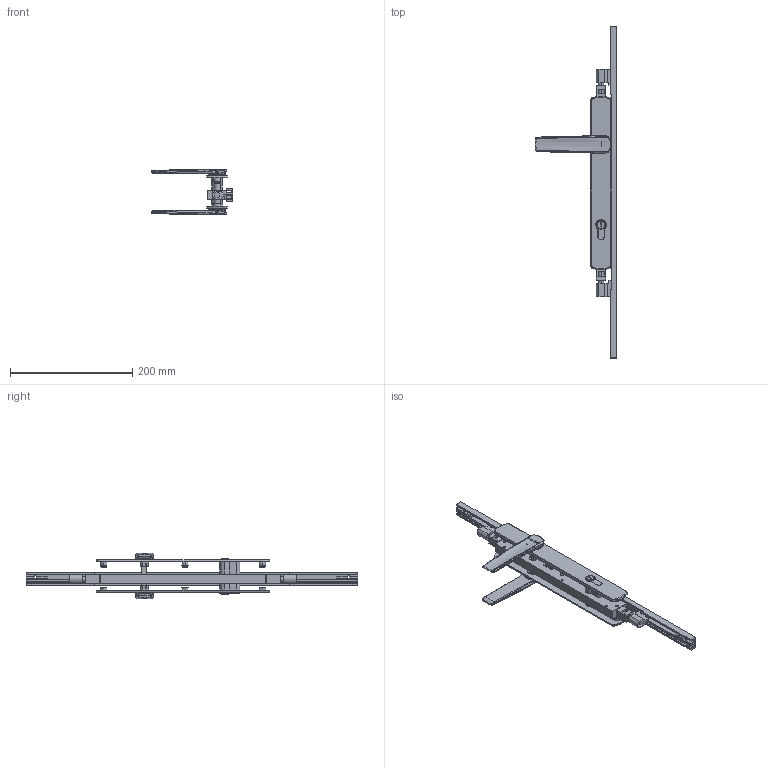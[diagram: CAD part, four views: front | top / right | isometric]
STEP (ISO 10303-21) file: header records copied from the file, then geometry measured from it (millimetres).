
FILE_DESCRIPTION (( 'STEP AP214' ), '1' );
FILE_NAME ('TPL-W-APC-614-U 28Oct2024.STEP', '2024-10-28T03:53:05', ( '' ), ( '' ), 'SwSTEP 2.0', 'SolidWorks 2023', '' );
FILE_SCHEMA (( 'AUTOMOTIVE_DESIGN' ));
Length unit declared in the file: millimetre
Products named in the file (24): Copy of TPGen2 handle keyed internal zinc - simplified^TPL-W-APC-114 18Oct2024_Right; Copy of LKC-585 Rotator body zinc^Copy of TPGen2 handle keyed external zinc - simplified_TPL-W-APC-114 18Oct2024; Copy of LKC-505 Swing handle zinc - simplified^Copy of TPGen2 handle keyed internal zinc - simplified_TPL-W-APC-114 18Oct2024; Adapter C - simplfied^TPL-W-APC-114 18Oct2024; Copy of TPLGen2 lock body keyed assembly^TPL-W-APC-114 18Oct2024_Bolts retracted; Bolt.step; Adapter D - simplfied^TPL-W-APC-114 18Oct2024; Copy of LKC-531 Lock twinpoint transmission rod wood system^TPL-W-APC-114 18Oct2024_Standard Range (588.7mm); Copy of LKC-585 Rotator body zinc^Copy of TPGen2 handle keyed internal zinc - simplified_TPL-W-APC-114 18Oct2024; Copy of COV-115-A Cover A suit TPLGen2 standard range AU with hinge holes^TPL-W-APC-114 18Oct2024_1335mm; Copy of TPL-036 Lock cylinder double key C4 3-5 PIN 55 (23-32)mm^TPL-W-APC-114 18Oct2024_Right; Copy of Copy of LKC-531 Lock twinpoint transmission rod wood system^TPL-W-APC-114 18Oct2024_Standard Range 2891.7mm; Copy of LKC-514 Escutcheon plate keyed external 285mm long zinc - simplified^Copy of TPGen2 handle keyed external zinc - simplified_TPL-W-APC-114 18Oct2024; Copy of TPLGen2 push rod - simplified^Copy of TPLGen2 lock body keyed assembly_TPL-W-APC-114 18Oct2024_Female thread M10; TPL-W-APC-614-U 28Oct2024; Copy of TPGen2 handle keyed external zinc - simplified^TPL-W-APC-114 18Oct2024_Left; Copy of LKC-584 Pivot body zinc - simplified^Copy of TPGen2 handle keyed internal zinc - simplified_TPL-W-APC-114 18Oct2024; Copy of LKC-512 Escutcheon plate keyed internal 285mm long zinc - simplified^Copy of TPGen2 handle keyed internal zinc - simplified_TPL-W-APC-114 18Oct2024; Copy of LKC-586 Spindle square 8mm with M4 hole^Copy of TPGen2 handle keyed internal zinc - simplified_TPL-W-APC-114 18Oct2024_42mm; Copy of LKC-584 Pivot body zinc - simplified^Copy of TPGen2 handle keyed external zinc - simplified_TPL-W-APC-114 18Oct2024; Copy of COV-115-C Cover C suit TPLGen2 standard range AU^TPL-W-APC-114 18Oct2024; Copy of LKC-505 Swing handle zinc - simplified^Copy of TPGen2 handle keyed external zinc - simplified_TPL-W-APC-114 18Oct2024; Copy of TPLGen2 lock body keyed^Copy of TPLGen2 lock body keyed assembly_TPL-W-APC-114 18Oct2024; Copy of COV-115-B Cover B suit TPLGen2 standard range AU with hinge holes^TPL-W-APC-114 18Oct2024_2870mm
Assembly tree (21 placements, depth 3):
  Bolt.step
  Copy of COV-115-A Cover A suit TPLGen2 standard range AU with hinge holes^TPL-W-APC-114 18Oct2024_1335mm
  TPL-W-APC-614-U 28Oct2024
    Copy of TPLGen2 lock body keyed assembly^TPL-W-APC-114 18Oct2024_Bolts retracted
      Copy of TPLGen2 lock body keyed^Copy of TPLGen2 lock body keyed assembly_TPL-W-APC-114 18Oct2024
      Copy of TPLGen2 push rod - simplified^Copy of TPLGen2 lock body keyed assembly_TPL-W-APC-114 18Oct2024_Female thread M10  x2
    Copy of TPGen2 handle keyed internal zinc - simplified^TPL-W-APC-114 18Oct2024_Right
      Copy of LKC-512 Escutcheon plate keyed internal 285mm long zinc - simplified^Copy of TPGen2 handle keyed internal zinc - simplified_TPL-W-APC-114 18Oct2024
      Copy of LKC-505 Swing handle zinc - simplified^Copy of TPGen2 handle keyed internal zinc - simplified_TPL-W-APC-114 18Oct2024
      Copy of LKC-585 Rotator body zinc^Copy of TPGen2 handle keyed internal zinc - simplified_TPL-W-APC-114 18Oct2024
      Copy of LKC-586 Spindle square 8mm with M4 hole^Copy of TPGen2 handle keyed internal zinc - simplified_TPL-W-APC-114 18Oct2024_42mm
      Copy of LKC-584 Pivot body zinc - simplified^Copy of TPGen2 handle keyed internal zinc - simplified_TPL-W-APC-114 18Oct2024
    Copy of TPGen2 handle keyed external zinc - simplified^TPL-W-APC-114 18Oct2024_Left
      Copy of LKC-514 Escutcheon plate keyed external 285mm long zinc - simplified^Copy of TPGen2 handle keyed external zinc - simplified_TPL-W-APC-114 18Oct2024
      Copy of LKC-505 Swing handle zinc - simplified^Copy of TPGen2 handle keyed external zinc - simplified_TPL-W-APC-114 18Oct2024
      Copy of LKC-585 Rotator body zinc^Copy of TPGen2 handle keyed external zinc - simplified_TPL-W-APC-114 18Oct2024
      Copy of LKC-584 Pivot body zinc - simplified^Copy of TPGen2 handle keyed external zinc - simplified_TPL-W-APC-114 18Oct2024
    Copy of TPL-036 Lock cylinder double key C4 3-5 PIN 55 (23-32)mm^TPL-W-APC-114 18Oct2024_Right
    Copy of LKC-531 Lock twinpoint transmission rod wood system^TPL-W-APC-114 18Oct2024_Standard Range (588.7mm)
    Copy of Copy of LKC-531 Lock twinpoint transmission rod wood system^TPL-W-APC-114 18Oct2024_Standard Range 2891.7mm
    Copy of COV-115-C Cover C suit TPLGen2 standard range AU^TPL-W-APC-114 18Oct2024
    Adapter C - simplfied^TPL-W-APC-114 18Oct2024
    Adapter D - simplfied^TPL-W-APC-114 18Oct2024
  Copy of COV-115-B Cover B suit TPLGen2 standard range AU with hinge holes^TPL-W-APC-114 18Oct2024_2870mm
Bounding box: 134.12 x 544 x 74.92 mm (x, y, z)
Volume: 345215.9 mm3; surface area: 170496.4 mm2
Topology: 18 solids, 18 shells, 1382 faces, 3356 edges, 2052 vertices
Faces by surface type: bspline 417, plane 387, cylinder 332, cone 132, torus 98, sphere 16
Entity records: 52052 total; most frequent: CARTESIAN_POINT 22768, ORIENTED_EDGE 6516, DIRECTION 5280, EDGE_CURVE 3258, AXIS2_PLACEMENT_3D 2048, VERTEX_POINT 1992, EDGE_LOOP 1480, FACE_OUTER_BOUND 1347
